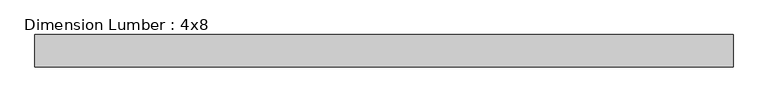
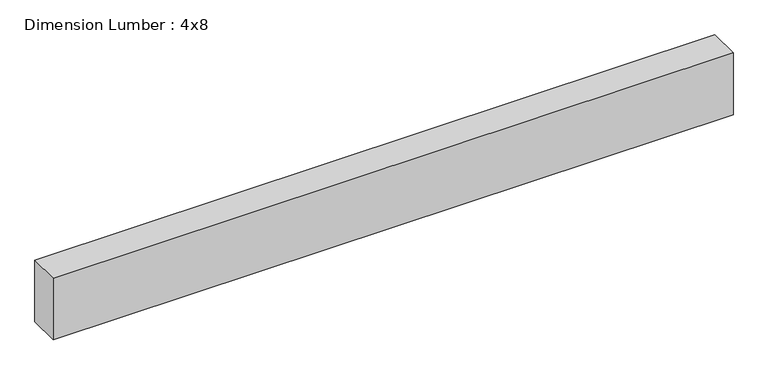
"""IFC4 building model written with IfcOpenShell, lengths in millimetres: beam geometry, Dimension Lumber : 4x8."""

from ifc_helpers import new_model, si_unit, frame, origin, place, context, project, spatial, polyline, outline, extrude, source, transform, mapped, element, save


def dimension_lumber_4x8_074de24d(model_context):
    return source(origin(), model_context, "Body", "SweptSolid", [
        extrude(outline(polyline([(981.075, 44.45), (981.075, -44.45), (-936.625, -44.45), (-936.625, 44.45), (981.075, 44.45)])), frame((0.0, 0.0, -92.075), z_axis=(0.0, 0.0, 1.0), x_axis=(1.0, 0.0, 0.0)), (0.0, 0.0, 1.0), 184.15),
    ])


if __name__ == "__main__":
    model = new_model("IFC4")
    model_context = context("Model", 3, world=origin())
    ifc_project = project(units=[si_unit("LENGTHUNIT", "METRE", prefix="MILLI")], contexts=[model_context])
    site = spatial("IfcSite", under=ifc_project)
    building = spatial("IfcBuilding", under=site)
    placement = place(None, origin())
    dimension_lumber_4x8_shape = dimension_lumber_4x8_074de24d(model_context)
    element("IfcBeam", 1, ObjectType="Dimension Lumber : 4x8", at=placement, inside=building, context=model_context, shape_type="MappedRepresentation", body=[
        mapped(dimension_lumber_4x8_shape, transform((0.0, 0.0, 0.0), x_axis=(1.0, 0.0, 0.0), y_axis=(0.0, 1.0, 0.0), z_axis=(0.0, 0.0, 1.0))),
    ])
    save(model, "model.ifc")
